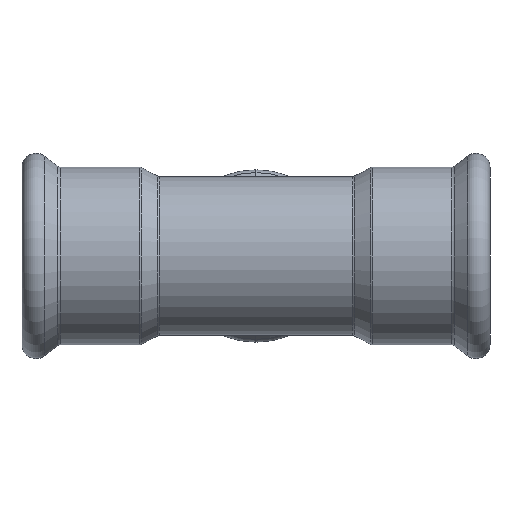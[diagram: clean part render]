
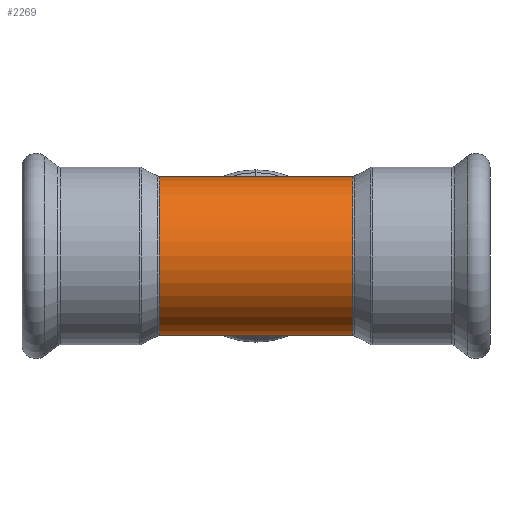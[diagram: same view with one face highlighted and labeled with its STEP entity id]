
A CAD part, front view. The second image highlights one B-rep face of the part: STEP entity #2269.
In plain terms, the highlighted cylindrical face has radius 17.15 mm (diameter 34.3 mm), a partial arc.
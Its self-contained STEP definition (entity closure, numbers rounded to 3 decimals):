
#458 = AXIS2_PLACEMENT_3D ( 'NONE', #3329, #4240, #977 ) ;
#588 = VERTEX_POINT ( 'NONE', #4117 ) ;
#643 = VECTOR ( 'NONE', #2234, 1000. ) ;
#677 = VERTEX_POINT ( 'NONE', #3882 ) ;
#750 = LINE ( 'NONE', #2342, #2957 ) ;
#884 = CARTESIAN_POINT ( 'NONE',  ( 0., 0., 17.15 ) ) ;
#953 = EDGE_CURVE ( 'NONE', #2187, #677, #750, .T. ) ;
#977 = DIRECTION ( 'NONE',  ( 0., 0., 1. ) ) ;
#1048 = CYLINDRICAL_SURFACE ( 'NONE', #4192, 17.15 ) ;
#1128 = ORIENTED_EDGE ( 'NONE', *, *, #3414, .T. ) ;
#1439 = FACE_OUTER_BOUND ( 'NONE', #1876, .T. ) ;
#1505 = DIRECTION ( 'NONE',  ( 0., 0., 1. ) ) ;
#1750 = CARTESIAN_POINT ( 'NONE',  ( 20.877, 0., 0. ) ) ;
#1768 = VERTEX_POINT ( 'NONE', #1822 ) ;
#1797 = CIRCLE ( 'NONE', #458, 17.15 ) ;
#1822 = CARTESIAN_POINT ( 'NONE',  ( -20.877, 0., 17.15 ) ) ;
#1825 = ORIENTED_EDGE ( 'NONE', *, *, #953, .F. ) ;
#1856 = CIRCLE ( 'NONE', #2900, 17.15 ) ;
#1876 = EDGE_LOOP ( 'NONE', ( #1825, #1128, #3245, #3386 ) ) ;
#2180 = EDGE_CURVE ( 'NONE', #1768, #677, #1797, .T. ) ;
#2187 = VERTEX_POINT ( 'NONE', #4313 ) ;
#2234 = DIRECTION ( 'NONE',  ( -1., 0., 0. ) ) ;
#2269 = ADVANCED_FACE ( 'NONE', ( #1439 ), #1048, .T. ) ;
#2342 = CARTESIAN_POINT ( 'NONE',  ( 0., 0., -17.15 ) ) ;
#2689 = DIRECTION ( 'NONE',  ( 0., 0., 1. ) ) ;
#2900 = AXIS2_PLACEMENT_3D ( 'NONE', #1750, #3449, #1505 ) ;
#2957 = VECTOR ( 'NONE', #3365, 1000. ) ;
#2989 = EDGE_CURVE ( 'NONE', #588, #1768, #3479, .T. ) ;
#3059 = DIRECTION ( 'NONE',  ( -1., 0., 0. ) ) ;
#3245 = ORIENTED_EDGE ( 'NONE', *, *, #2989, .T. ) ;
#3329 = CARTESIAN_POINT ( 'NONE',  ( -20.877, 0., 0. ) ) ;
#3365 = DIRECTION ( 'NONE',  ( -1., 0., 0. ) ) ;
#3386 = ORIENTED_EDGE ( 'NONE', *, *, #2180, .T. ) ;
#3414 = EDGE_CURVE ( 'NONE', #2187, #588, #1856, .T. ) ;
#3449 = DIRECTION ( 'NONE',  ( -1., 0., 0. ) ) ;
#3479 = LINE ( 'NONE', #884, #643 ) ;
#3718 = CARTESIAN_POINT ( 'NONE',  ( 0., 0., 0. ) ) ;
#3882 = CARTESIAN_POINT ( 'NONE',  ( -20.877, 0., -17.15 ) ) ;
#4117 = CARTESIAN_POINT ( 'NONE',  ( 20.877, 0., 17.15 ) ) ;
#4192 = AXIS2_PLACEMENT_3D ( 'NONE', #3718, #3059, #2689 ) ;
#4240 = DIRECTION ( 'NONE',  ( 1., 0., 0. ) ) ;
#4313 = CARTESIAN_POINT ( 'NONE',  ( 20.877, 0., -17.15 ) ) ;
